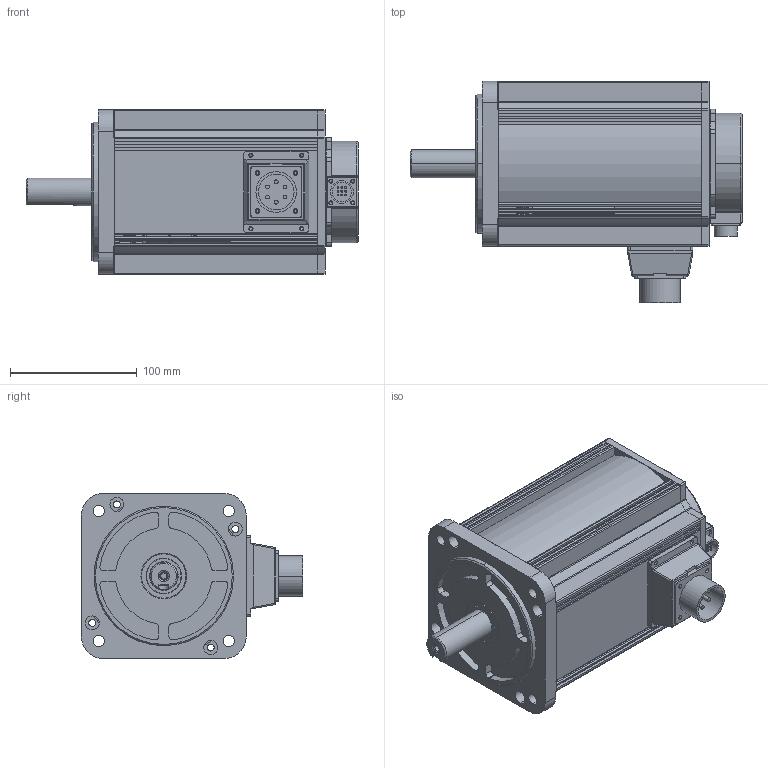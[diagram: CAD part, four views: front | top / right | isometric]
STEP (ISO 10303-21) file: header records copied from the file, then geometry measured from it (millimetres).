
FILE_DESCRIPTION(('FreeCAD Model'),'2;1');
FILE_NAME('Open CASCADE Shape Model','2025-03-19T10:00:46',('Author'),( ''),'Open CASCADE STEP processor 7.6','FreeCAD','Unknown');
FILE_SCHEMA(('AUTOMOTIVE_DESIGN { 1 0 10303 214 1 1 1 1 }'));
Length unit declared in the file: millimetre
Products named in the file (252): PSM6H-130CM15BZ2-41P8; PSM6H-130CM15BZ2-41P009; PSM6H-130CM15BZ2-41P010; PSM6H-130CM15BZ2-41P011; PSM6H-130CM15BZ2-41P012; PSM6H-130CM15BZ2-41P013; PSM6H-130CM15BZ2-41P014; PSM6H-130CM15BZ2-41P015; PSM6H-130CM15BZ2-41P016; PSM6H-130CM15BZ2-41P017; PSM6H-130CM15BZ2-41P018; PSM6H-130CM15BZ2-41P019; PSM6H-130CM15BZ2-41P020; PSM6H-130CM15BZ2-41P021; PSM6H-130CM15BZ2-41P022; PSM6H-130CM15BZ2-41P023; PSM6H-130CM15BZ2-41P024; PSM6H-130CM15BZ2-41P025; PSM6H-130CM15BZ2-41P026; PSM6H-130CM15BZ2-41P027; PSM6H-130CM15BZ2-41P028; PSM6H-130CM15BZ2-41P029; PSM6H-130CM15BZ2-41P030; PSM6H-130CM15BZ2-41P031; PSM6H-130CM15BZ2-41P032; PSM6H-130CM15BZ2-41P033; PSM6H-130CM15BZ2-41P034; PSM6H-130CM15BZ2-41P035; PSM6H-130CM15BZ2-41P036; PSM6H-130CM15BZ2-41P037; PSM6H-130CM15BZ2-41P038; PSM6H-130CM15BZ2-41P039; PSM6H-130CM15BZ2-41P040; PSM6H-130CM15BZ2-41P041; PSM6H-130CM15BZ2-41P042; PSM6H-130CM15BZ2-41P043; PSM6H-130CM15BZ2-41P044; PSM6H-130CM15BZ2-41P045; PSM6H-130CM15BZ2-41P046; PSM6H-130CM15BZ2-41P047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
Assembly tree (251 placements, depth 2):
  PSM6H-130CM15BZ2-41P8
    PSM6H-130CM15BZ2-41P009
    PSM6H-130CM15BZ2-41P010
    PSM6H-130CM15BZ2-41P011
    PSM6H-130CM15BZ2-41P012
    PSM6H-130CM15BZ2-41P013
    PSM6H-130CM15BZ2-41P014
    PSM6H-130CM15BZ2-41P015
    PSM6H-130CM15BZ2-41P016
    PSM6H-130CM15BZ2-41P017
    PSM6H-130CM15BZ2-41P018
    PSM6H-130CM15BZ2-41P019
    PSM6H-130CM15BZ2-41P020
    PSM6H-130CM15BZ2-41P021
    PSM6H-130CM15BZ2-41P022
    PSM6H-130CM15BZ2-41P023
    PSM6H-130CM15BZ2-41P024
    PSM6H-130CM15BZ2-41P025
    PSM6H-130CM15BZ2-41P026
    PSM6H-130CM15BZ2-41P027
    PSM6H-130CM15BZ2-41P028
    PSM6H-130CM15BZ2-41P029
    PSM6H-130CM15BZ2-41P030
    PSM6H-130CM15BZ2-41P031
    PSM6H-130CM15BZ2-41P032
    PSM6H-130CM15BZ2-41P033
    PSM6H-130CM15BZ2-41P034
    PSM6H-130CM15BZ2-41P035
    PSM6H-130CM15BZ2-41P036
    PSM6H-130CM15BZ2-41P037
    PSM6H-130CM15BZ2-41P038
    PSM6H-130CM15BZ2-41P039
    PSM6H-130CM15BZ2-41P040
    PSM6H-130CM15BZ2-41P041
    PSM6H-130CM15BZ2-41P042
    PSM6H-130CM15BZ2-41P043
    PSM6H-130CM15BZ2-41P044
    PSM6H-130CM15BZ2-41P045
    PSM6H-130CM15BZ2-41P046
    PSM6H-130CM15BZ2-41P047
    PSM6H-130CM15BZ2-41P048
    PSM6H-130CM15BZ2-41P049
    PSM6H-130CM15BZ2-41P050
    PSM6H-130CM15BZ2-41P051
    PSM6H-130CM15BZ2-41P052
    PSM6H-130CM15BZ2-41P053
    PSM6H-130CM15BZ2-41P054
    PSM6H-130CM15BZ2-41P055
    PSM6H-130CM15BZ2-41P056
    PSM6H-130CM15BZ2-41P057
    PSM6H-130CM15BZ2-41P058
    PSM6H-130CM15BZ2-41P059
    PSM6H-130CM15BZ2-41P060
    PSM6H-130CM15BZ2-41P061
    PSM6H-130CM15BZ2-41P062
    PSM6H-130CM15BZ2-41P063
    PSM6H-130CM15BZ2-41P064
    PSM6H-130CM15BZ2-41P065
    PSM6H-130CM15BZ2-41P066
    PSM6H-130CM15BZ2-41P067
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Bounding box: 262 x 174.5 x 130 mm (x, y, z)
Surface area: 236875.2 mm2 (no closed solid volume)
Topology: 0 solids, 251 shells, 2726 faces, 9514 edges, 6887 vertices
Faces by surface type: cylinder 1573, plane 1068, cone 29, torus 25, bspline 13, sphere 13, revolution 5
Entity records: 110834 total; most frequent: CARTESIAN_POINT 20540, DIRECTION 19341, ORIENTED_EDGE 14594, EDGE_CURVE 9494, AXIS2_PLACEMENT_3D 6957, VERTEX_POINT 6887, LINE 5422, VECTOR 5422
